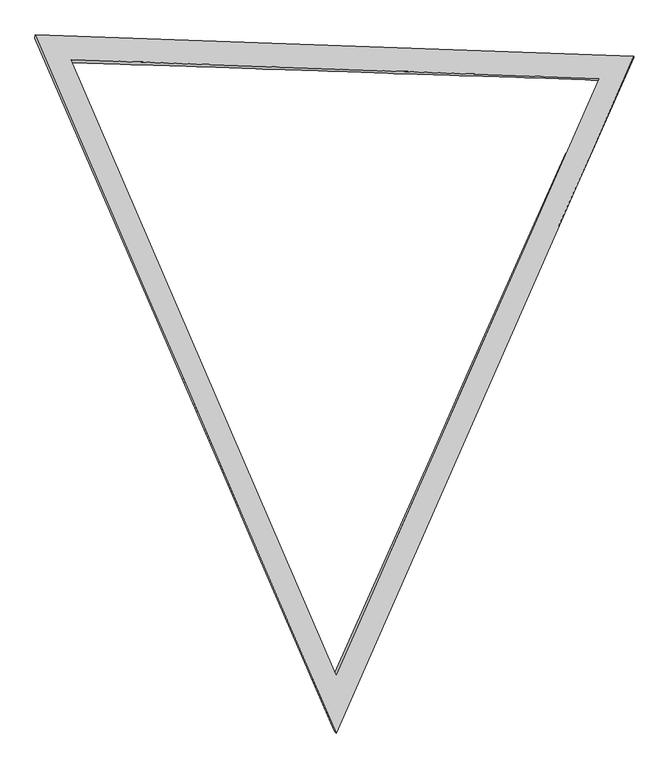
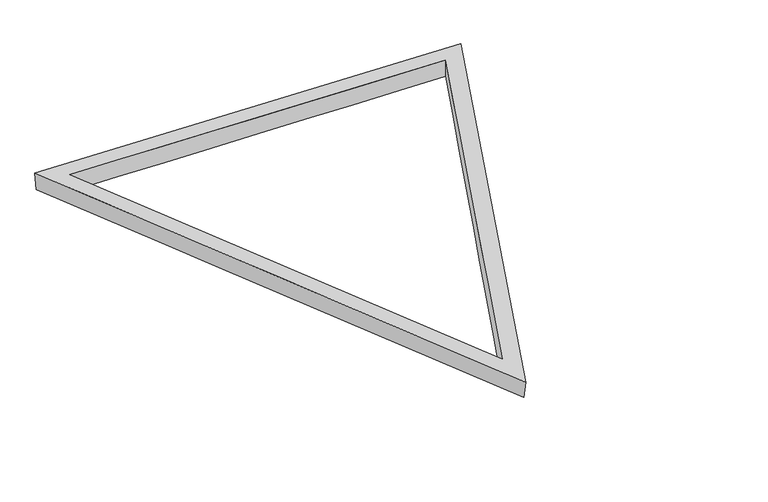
"""IFC4 building model written with IfcOpenShell, lengths in millimetres: plate geometry."""

from ifc_helpers import new_model, si_unit, frame, origin, place, context, project, spatial, source, transform, mapped, element, save
from ifc_brep_helpers import plane_surface, spline_surface, advanced_brep


def plate_8823b085(model_context):
    return source(origin(), model_context, "Body", "AdvancedBrep", [
        advanced_brep(
        [(3799.0547445, 6937.4996615, 0.0), (3800.1173639, 6964.6808845, 201.3244976), (6112.9804455, 1600.3871465, 201.8189892), (6098.6927055, 1616.0125893, 0.0), (8400.4365002, 6798.8638974, 202.7250558), (8398.3306666, 6785.7009161, 0.0), (6096.0, 1110.0003867, 0.0), (8706.640315, 6978.8358254, 0.0), (8707.0465518, 6991.1441966, 202.826475), (6111.0846601, 1091.5565247, 201.7982086), (3485.359685, 7151.1637879, 0.0), (3486.289133, 7179.3246772, 201.2370255)],
        [
            (0, 1),
            (1, 2),
            (2, 3),
            (3, 0),
            (2, 4),
            (4, 5),
            (5, 3),
            (0, 5),
            (4, 1),
            (6, 7),
            (7, 8),
            (8, 9),
            (9, 6),
            (7, 10),
            (10, 11),
            (11, 8),
            (9, 11),
            (10, 6),
        ],
        [
            spline_surface(1, 1, [[(3799.0547445, 6937.4996615, 0.0), (6098.6927055, 1616.0125893, 0.0)], [(3800.1173639, 6964.6808845, 201.3244976), (6112.9804455, 1600.3871465, 201.8189892)]], [2, 2], [2, 2], [0.0, 1.0], [0.0, 1.0]),
            spline_surface(1, 1, [[(6098.6927055, 1616.0125893, 0.0), (8398.3306666, 6785.7009161, 0.0)], [(6112.9804455, 1600.3871465, 201.8189892), (8400.4365002, 6798.8638974, 202.7250558)]], [2, 2], [2, 2], [0.0, 1.0], [0.0, 1.0]),
            spline_surface(1, 1, [[(8398.3306666, 6785.7009161, 0.0), (3799.0547445, 6937.4996615, 0.0)], [(8400.4365002, 6798.8638974, 202.7250558), (3800.1173639, 6964.6808845, 201.3244976)]], [2, 2], [2, 2], [0.0, 1.0], [0.0, 1.0]),
            spline_surface(1, 1, [[(6096.0, 1110.0003867, 0.0), (6111.0846601, 1091.5565247, 201.7982086)], [(8706.640315, 6978.8358254, 0.0), (8707.0465518, 6991.1441966, 202.826475)]], [2, 2], [2, 2], [0.0, 1.0], [0.0, 1.0]),
            spline_surface(1, 1, [[(8706.640315, 6978.8358254, 0.0), (8707.0465518, 6991.1441966, 202.826475)], [(3485.359685, 7151.1637879, 0.0), (3486.289133, 7179.3246772, 201.2370255)]], [2, 2], [2, 2], [0.0, 1.0], [0.0, 1.0]),
            spline_surface(1, 1, [[(3485.359685, 7151.1637879, 0.0), (3486.289133, 7179.3246772, 201.2370255)], [(6096.0, 1110.0003867, 0.0), (6111.0846601, 1091.5565247, 201.7982086)]], [2, 2], [2, 2], [0.0, 1.0], [0.0, 1.0]),
            plane_surface(frame((6101.4734483, 5087.3417995, 201.953903), z_axis=(-0.0003058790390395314, -3.970041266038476e-05, 0.9999999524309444), x_axis=(0.3959257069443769, -0.9182825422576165, 8.464918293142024e-05))),
            plane_surface(frame((6096.0, 5080.0, 0.0), z_axis=(0.0, 0.0, -1.0000000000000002), x_axis=(-0.3966865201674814, 0.917954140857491, 0.0))),
        ],
        [
            (0, [[1, 2, 3, 4]]),
            (1, [[-3, 5, 6, 7]]),
            (2, [[-1, 8, -6, 9]]),
            (3, [[10, 11, 12, 13]]),
            (4, [[-11, 14, 15, 16]]),
            (5, [[-13, 17, -15, 18]]),
            (6, [[-12, -16, -17], [-2, -9, -5]]),
            (7, [[-10, -18, -14], [-4, -7, -8]]),
        ],
    ),
    ])


if __name__ == "__main__":
    model = new_model("IFC4")
    model_context = context("Model", 3, world=origin())
    ifc_project = project(units=[si_unit("LENGTHUNIT", "METRE", prefix="MILLI")], contexts=[model_context])
    site = spatial("IfcSite", under=ifc_project)
    building = spatial("IfcBuilding", under=site)
    placement = place(None, origin())
    plate_shape = plate_8823b085(model_context)
    element("IfcPlate", 1, ObjectType="tn_cpanel_patbase_triangle_flat_seamless_frame_02_cylinder : tn_triangle_seamless_frame_t8\"xh8\"", at=placement, inside=building, context=model_context, shape_type="MappedRepresentation", body=[
        mapped(plate_shape, transform((0.0, 0.0, 0.0), x_axis=(1.0, 0.0, 0.0), y_axis=(0.0, 1.0, 0.0), z_axis=(0.0, 0.0, 1.0))),
    ])
    save(model, "model.ifc")
